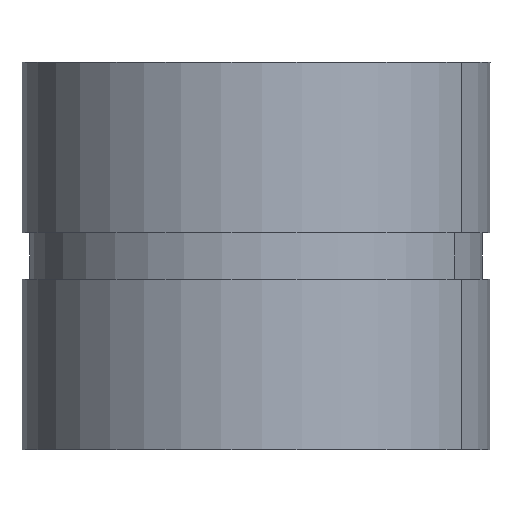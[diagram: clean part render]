
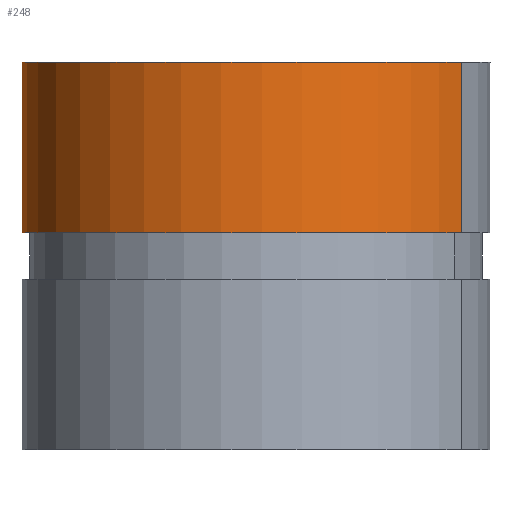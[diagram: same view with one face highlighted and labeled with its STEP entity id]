
A CAD part, left-side view. The second image highlights one B-rep face of the part: STEP entity #248.
In plain terms, the highlighted cylindrical face has radius 30.165 mm (diameter 60.33 mm), a partial arc.
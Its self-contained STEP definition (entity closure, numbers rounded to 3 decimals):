
#132=CARTESIAN_POINT('Vertex',(14.462,26.472,0.)) ;
#134=CARTESIAN_POINT('Vertex',(-14.462,-26.472,0.)) ;
#137=CARTESIAN_POINT('Axis2P3D Location',(0.,0.,0.)) ;
#206=CARTESIAN_POINT('Line Origine',(14.462,26.472,-25.)) ;
#210=CARTESIAN_POINT('Vertex',(14.462,26.472,-22.)) ;
#213=CARTESIAN_POINT('Line Origine',(-14.462,-26.472,-25.)) ;
#217=CARTESIAN_POINT('Vertex',(-14.462,-26.472,-22.)) ;
#232=CARTESIAN_POINT('Axis2P3D Location',(0.,0.,-25.)) ;
#237=CARTESIAN_POINT('Axis2P3D Location',(0.,0.,-22.)) ;
#138=DIRECTION('Axis2P3D Direction',(0.,0.,-1.)) ;
#207=DIRECTION('Vector Direction',(0.,0.,-1.)) ;
#214=DIRECTION('Vector Direction',(0.,0.,-1.)) ;
#233=DIRECTION('Axis2P3D Direction',(-0.,0.,-1.)) ;
#234=DIRECTION('Axis2P3D XDirection',(-0.479,-0.878,0.)) ;
#238=DIRECTION('Axis2P3D Direction',(-0.,0.,-1.)) ;
#139=AXIS2_PLACEMENT_3D('Circle Axis2P3D',#137,#138,$) ;
#235=AXIS2_PLACEMENT_3D('Cylinder Axis2P3D',#232,#233,#234) ;
#239=AXIS2_PLACEMENT_3D('Circle Axis2P3D',#237,#238,$) ;
#243=ORIENTED_EDGE('',*,*,#219,.T.) ;
#244=ORIENTED_EDGE('',*,*,#141,.T.) ;
#245=ORIENTED_EDGE('',*,*,#212,.F.) ;
#246=ORIENTED_EDGE('',*,*,#241,.F.) ;
#208=VECTOR('Line Direction',#207,1.) ;
#215=VECTOR('Line Direction',#214,1.) ;
#248=ADVANCED_FACE('PartBody',(#247),#236,.T.) ;
#140=CIRCLE('generated circle',#139,30.165) ;
#240=CIRCLE('generated circle',#239,30.165) ;
#236=CYLINDRICAL_SURFACE('generated cylinder',#235,30.165) ;
#141=EDGE_CURVE('',#135,#133,#140,.T.) ;
#212=EDGE_CURVE('',#211,#133,#209,.F.) ;
#219=EDGE_CURVE('',#218,#135,#216,.F.) ;
#241=EDGE_CURVE('',#218,#211,#240,.T.) ;
#242=EDGE_LOOP('',(#243,#244,#245,#246)) ;
#247=FACE_OUTER_BOUND('',#242,.T.) ;
#209=LINE('Line',#206,#208) ;
#216=LINE('Line',#213,#215) ;
#133=VERTEX_POINT('',#132) ;
#135=VERTEX_POINT('',#134) ;
#211=VERTEX_POINT('',#210) ;
#218=VERTEX_POINT('',#217) ;
